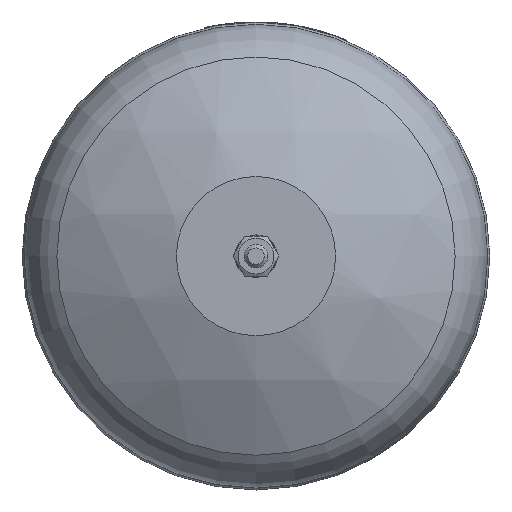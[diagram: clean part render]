
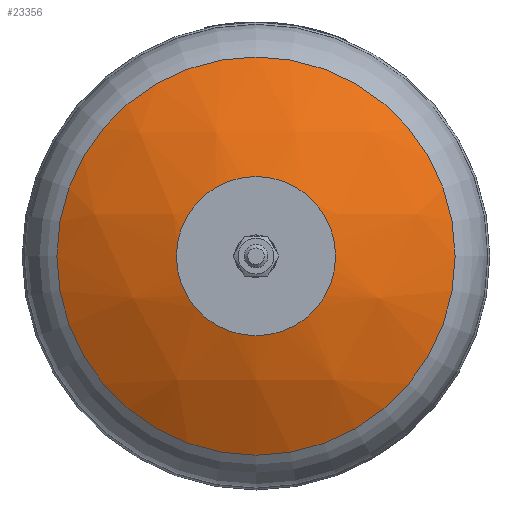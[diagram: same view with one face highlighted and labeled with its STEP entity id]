
A CAD part, front view. The second image highlights one B-rep face of the part: STEP entity #23356.
In plain terms, the highlighted spherical face has radius 159 mm.
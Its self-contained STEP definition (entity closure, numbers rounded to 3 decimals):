
#14=SPHERICAL_SURFACE('',#25109,159.);
#4379=FACE_BOUND('',#8135,.T.);
#6708=FACE_OUTER_BOUND('',#8134,.T.);
#8134=EDGE_LOOP('',(#21285));
#8135=EDGE_LOOP('',(#21286));
#8657=CIRCLE('',#25108,85.047);
#8658=CIRCLE('',#25110,34.);
#10983=VERTEX_POINT('',#50163);
#10984=VERTEX_POINT('',#50166);
#14442=EDGE_CURVE('',#10983,#10983,#8657,.T.);
#14443=EDGE_CURVE('',#10984,#10984,#8658,.T.);
#21285=ORIENTED_EDGE('',*,*,#14442,.T.);
#21286=ORIENTED_EDGE('',*,*,#14443,.F.);
#23356=ADVANCED_FACE('',(#6708,#4379),#14,.T.);
#25108=AXIS2_PLACEMENT_3D('',#50164,#30227,#30228);
#25109=AXIS2_PLACEMENT_3D('',#50165,#30229,#30230);
#25110=AXIS2_PLACEMENT_3D('',#50167,#30231,#30232);
#30227=DIRECTION('center_axis',(0.,-1.,0.));
#30228=DIRECTION('ref_axis',(1.,0.,0.));
#30229=DIRECTION('center_axis',(0.,0.,
1.));
#30230=DIRECTION('ref_axis',(-1.,0.,0.));
#30231=DIRECTION('center_axis',(0.,-1.,0.));
#30232=DIRECTION('ref_axis',(1.,0.,0.));
#50163=CARTESIAN_POINT('',(85.047,-143.021,0.));
#50164=CARTESIAN_POINT('Origin',(0.,-143.021,
0.));
#50165=CARTESIAN_POINT('Origin',(0.,-8.678,
0.));
#50166=CARTESIAN_POINT('',(34.,-164.,0.));
#50167=CARTESIAN_POINT('Origin',(0.,-164.,0.));
